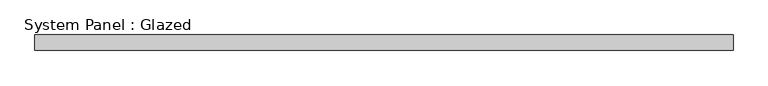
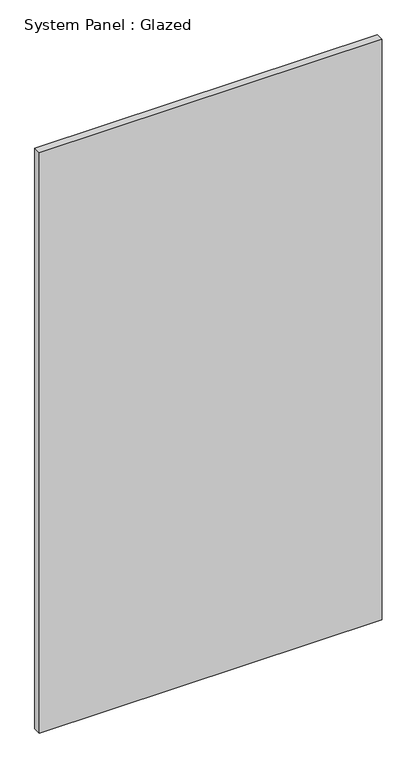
"""IFC4 building model written with IfcOpenShell, lengths in millimetres: plate geometry, System Panel : Glazed."""

import ifcopenshell
import ifcopenshell.guid

model = None  # the IFC model being written
_history = None  # IfcOwnerHistory: only IFC2X3 demands one
_inside = {}  # id of a spatial element -> (the spatial element, [elements in it])
_under = {}  # id of a project, library or spatial element -> (it, [spatial elements below it])
_declared = {}  # id of a project -> (the project, [libraries it declares])
_typed = {}  # id of a type object -> (the type object, [elements of that type])
_made_of = {}  # id of a material, layer set ... -> (it, [elements and type objects made of it])


def new_model(schema):
    """Start an empty IFC model of exactly this schema.

    Asked for "IFC4X3", IfcOpenShell would pick the latest addendum, in which some entities
    have other attributes; the version numbers below select the first issue.
    IFC2X3 requires an IfcOwnerHistory on every rooted entity: one is made here for all.
    """
    global model, _history
    if schema == "IFC4X3":
        model = ifcopenshell.file(schema_version=(4, 3, 0, 0))
    else:
        model = ifcopenshell.file(schema=schema)
    _inside.clear()
    _under.clear()
    _declared.clear()
    _typed.clear()
    _made_of.clear()
    _history = None
    if model.schema == "IFC2X3":
        org = make("IfcOrganization", Name="unknown")
        user = make(
            "IfcPersonAndOrganization",
            ThePerson=make("IfcPerson", FamilyName="unknown"),
            TheOrganization=org,
        )
        app = make(
            "IfcApplication",
            ApplicationDeveloper=org,
            Version="unknown",
            ApplicationFullName="unknown",
            ApplicationIdentifier="unknown",
        )
        _history = make(
            "IfcOwnerHistory",
            OwningUser=user,
            OwningApplication=app,
            ChangeAction="ADDED",
            CreationDate=0,
        )
    return model


def make(cls, **values):
    """One entity of the class cls with the attributes given. An attribute that is None is left unset."""
    return model.create_entity(
        cls, **{name: value for name, value in values.items() if value is not None}
    )


def rooted(cls, **values):
    """An entity with a GlobalId (a new one), such as an element, a storey or a relation."""
    return make(cls, GlobalId=ifcopenshell.guid.new(), OwnerHistory=_history, **values)


def si_unit(unit_type, name, prefix=None):
    """IfcSIUnit, for example si_unit("LENGTHUNIT", "METRE", prefix="MILLI")."""
    return make("IfcSIUnit", UnitType=unit_type, Prefix=prefix, Name=name)


def assignment(units):
    """IfcUnitAssignment: the units of a project."""
    return None if units is None else make("IfcUnitAssignment", Units=units)


def point(xyz):
    """IfcCartesianPoint."""
    return None if xyz is None else make("IfcCartesianPoint", Coordinates=xyz)


def direction(xyz):
    """IfcDirection."""
    return None if xyz is None else make("IfcDirection", DirectionRatios=xyz)


def frame(location, z_axis=None, x_axis=None):
    """IfcAxis2Placement3D, a coordinate frame: its origin and axes. An axis left out is left unset."""
    return make(
        "IfcAxis2Placement3D",
        Location=point(location),
        Axis=direction(z_axis),
        RefDirection=direction(x_axis),
    )


def origin():
    """The frame at (0, 0, 0) with its axes left unset."""
    return frame((0.0, 0.0, 0.0))


def origin_with_axes():
    """The frame at (0, 0, 0) with the z axis (0, 0, 1) and the x axis (1, 0, 0) written out."""
    return frame((0.0, 0.0, 0.0), z_axis=(0.0, 0.0, 1.0), x_axis=(1.0, 0.0, 0.0))


def place(relative_to, where):
    """IfcLocalPlacement: puts the frame where relative to a parent placement (None: the world)."""
    return make(
        "IfcLocalPlacement", PlacementRelTo=relative_to, RelativePlacement=where
    )


def context(
    kind, dimensions, precision=None, world=None, true_north=None, identifier=None
):
    """IfcGeometricRepresentationContext, for example the 3D "Model" context."""
    return make(
        "IfcGeometricRepresentationContext",
        ContextIdentifier=identifier,
        ContextType=kind,
        CoordinateSpaceDimension=dimensions,
        Precision=precision,
        WorldCoordinateSystem=world,
        TrueNorth=true_north,
    )


def project(units=None, contexts=None):
    """IfcProject with its units and contexts."""
    return rooted(
        "IfcProject",
        Name="project",
        RepresentationContexts=contexts,
        UnitsInContext=assignment(units),
    )


def spatial(cls, under=None, at=None, **own):
    """A site, building, storey or space (cls), placed at a placement, below another one or the project."""
    s = rooted(cls, ObjectPlacement=at, **own)
    if under is not None:
        _under.setdefault(under.id(), (under, []))[1].append(s)
    return s


def polyline(points):
    """IfcPolyline through the points."""
    return make("IfcPolyline", Points=[point(p) for p in points])


def outline(outer, holes=None, kind="AREA"):
    """IfcArbitraryClosedProfileDef: a profile drawn as a closed curve; with holes, ...WithVoids."""
    if holes is None:
        return make("IfcArbitraryClosedProfileDef", ProfileType=kind, OuterCurve=outer)
    return make(
        "IfcArbitraryProfileDefWithVoids",
        ProfileType=kind,
        OuterCurve=outer,
        InnerCurves=holes,
    )


def extrude(swept, where, along, depth):
    """IfcExtrudedAreaSolid: the profile swept, set in the frame where, extruded along a direction by depth."""
    return make(
        "IfcExtrudedAreaSolid",
        SweptArea=swept,
        Position=where,
        ExtrudedDirection=direction(along),
        Depth=depth,
    )


def shape(context_of_items, identifier, shape_type, items):
    """IfcShapeRepresentation: the items that make up one representation, for example the "Body"."""
    return make(
        "IfcShapeRepresentation",
        ContextOfItems=context_of_items,
        RepresentationIdentifier=identifier,
        RepresentationType=shape_type,
        Items=items,
    )


def source(mapping_origin, context_of_items, identifier, shape_type, items):
    """IfcRepresentationMap: a shape defined once, which mapped items show again and again."""
    return make(
        "IfcRepresentationMap",
        MappingOrigin=mapping_origin,
        MappedRepresentation=shape(context_of_items, identifier, shape_type, items),
    )


def transform(
    local_origin,
    x_axis=None,
    y_axis=None,
    z_axis=None,
    scale=None,
    scale2=None,
    scale3=None,
    uniform=True,
):
    """IfcCartesianTransformationOperator3D, or its non-uniform kind. x_axis, y_axis, z_axis: its Axis1, 2, 3."""
    if uniform:
        return make(
            "IfcCartesianTransformationOperator3D",
            Axis1=direction(x_axis),
            Axis2=direction(y_axis),
            LocalOrigin=point(local_origin),
            Scale=scale,
            Axis3=direction(z_axis),
        )
    return make(
        "IfcCartesianTransformationOperator3DnonUniform",
        Axis1=direction(x_axis),
        Axis2=direction(y_axis),
        LocalOrigin=point(local_origin),
        Scale=scale,
        Axis3=direction(z_axis),
        Scale2=scale2,
        Scale3=scale3,
    )


def mapped(mapping_source, mapping_target):
    """IfcMappedItem: shows the shape of a source again, moved by a transform."""
    return make(
        "IfcMappedItem", MappingSource=mapping_source, MappingTarget=mapping_target
    )


def made_of(thing, what):
    """Note that an element or type object is made of a material, layer set ...; save() writes the relation."""
    if what is not None:
        _made_of.setdefault(what.id(), (what, []))[1].append(thing)
    return thing


def element(
    cls,
    number,
    at=None,
    inside=None,
    cuts=None,
    type_object=None,
    material=None,
    context=None,
    identifier="Body",
    shape_type=None,
    held_by="IfcProductDefinitionShape",
    body=None,
    shapes=None,
    **own,
):
    """One element of the class cls, such as IfcWall. Its Tag is "e" and its number.

    at: its placement. inside: the storey or other place that contains it. cuts: it is an
    opening in that element (IfcRelVoidsElement). A single representation is given by context,
    identifier, shape_type and body (its items); several are given by shapes. held_by: the class
    of the entity that holds the representations. save() writes the other relations.
    """
    e = rooted(cls, Tag="e%d" % number, ObjectPlacement=at, **own)
    if body is not None:
        shapes = [shape(context, identifier, shape_type, body)]
    if shapes is not None:
        e.Representation = make(held_by, Representations=shapes)
    if inside is not None:
        _inside.setdefault(inside.id(), (inside, []))[1].append(e)
    if cuts is not None:
        rooted(
            "IfcRelVoidsElement", RelatingBuildingElement=cuts, RelatedOpeningElement=e
        )
    if type_object is not None:
        _typed.setdefault(type_object.id(), (type_object, []))[1].append(e)
    return made_of(e, material)


def aggregate(whole, parts):
    """IfcRelAggregates: a whole, such as a stair, and the parts it consists of."""
    return rooted("IfcRelAggregates", RelatingObject=whole, RelatedObjects=parts)


def save(model, path):
    """Write the relations noted so far, then the file.

    IfcRelAggregates (storeys below a building ...), IfcRelContainedInSpatialStructure (elements
    in a storey), IfcRelDefinesByType, IfcRelAssociatesMaterial and IfcRelDeclares: one each for
    every whole, place, type object, material and project.
    """
    for whole, parts in _under.values():
        aggregate(whole, parts)
    for where, things in _inside.values():
        rooted(
            "IfcRelContainedInSpatialStructure",
            RelatedElements=things,
            RelatingStructure=where,
        )
    for kind, things in _typed.values():
        rooted("IfcRelDefinesByType", RelatedObjects=things, RelatingType=kind)
    for what, things in _made_of.values():
        rooted("IfcRelAssociatesMaterial", RelatedObjects=things, RelatingMaterial=what)
    for by, libraries in _declared.values():
        rooted("IfcRelDeclares", RelatingContext=by, RelatedDefinitions=libraries)
    model.write(path)


def system_panel_glazed_915f67fa(model_context):
    return source(origin(), model_context, "Body", "SweptSolid", [
        extrude(outline(polyline([(560.9875, -49.5), (-560.9875, -49.5), (-560.9875, -24.5), (560.9875, -24.5), (560.9875, -49.5)])), origin_with_axes(), (0.0, 0.0, 1.0), 2008.0),
    ])


if __name__ == "__main__":
    model = new_model("IFC4")
    model_context = context("Model", 3, world=origin())
    ifc_project = project(units=[si_unit("LENGTHUNIT", "METRE", prefix="MILLI")], contexts=[model_context])
    site = spatial("IfcSite", under=ifc_project)
    building = spatial("IfcBuilding", under=site)
    placement = place(None, origin())
    system_panel_glazed_shape = system_panel_glazed_915f67fa(model_context)
    element("IfcPlate", 1, ObjectType="System Panel : Glazed", at=placement, inside=building, context=model_context, shape_type="MappedRepresentation", body=[
        mapped(system_panel_glazed_shape, transform((0.0, 0.0, 0.0), x_axis=(1.0, 0.0, 0.0), y_axis=(0.0, 1.0, 0.0), z_axis=(0.0, 0.0, 1.0))),
    ])
    save(model, "model.ifc")
